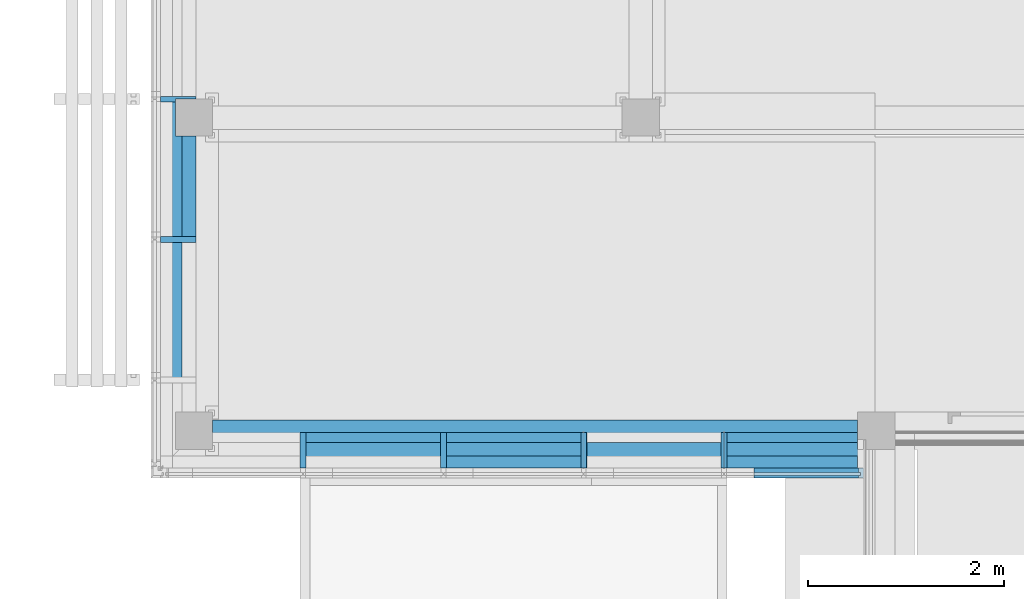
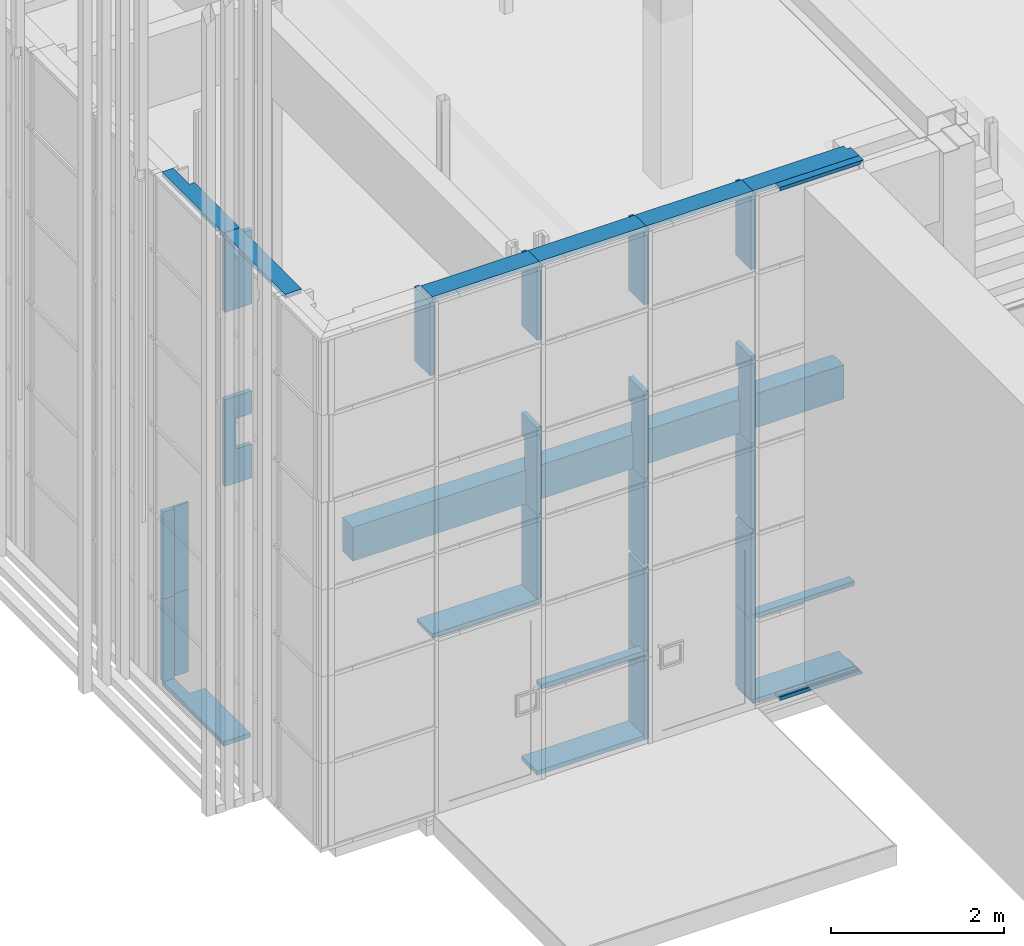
# One storey, part 69 of 260: 32 members, 1 beam, 2 elements without a shape of their own.
"""IFC2X3 building model written with IfcOpenShell, lengths in millimetres."""

from ifc_helpers import new_model, entity, si_unit, converted_unit, derived_unit, money_unit, direction, frame, origin_with_axes, place, context, subcontext, project, spatial, faceted_brep, material, type_object, element, aggregate, save


model = new_model("IFC2X3")

# Units and contexts
model_context = context("Model", 3, precision=0.01, world=origin_with_axes(), true_north=direction((0.0, 1.0)))
body_context = subcontext(model_context, "Body", "Model", "MODEL_VIEW")
ifc_project = project(units=[si_unit("LENGTHUNIT", "METRE", prefix="MILLI"), si_unit("AREAUNIT", "SQUARE_METRE"), si_unit("VOLUMEUNIT", "CUBIC_METRE"), converted_unit("PLANEANGLEUNIT", "DEGREE", entity("IfcPlaneAngleMeasure", 0.0174532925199), si_unit("PLANEANGLEUNIT", "RADIAN"), dimensions=[0, 0, 0, 0, 0, 0, 0]), money_unit("EUR"), converted_unit("TIMEUNIT", "Year", entity("IfcTimeMeasure", 31556926.0), si_unit("TIMEUNIT", "SECOND"), dimensions=[0, 0, 1, 0, 0, 0, 0]), si_unit("MASSUNIT", "GRAM", prefix="KILO"), si_unit("THERMODYNAMICTEMPERATUREUNIT", "DEGREE_CELSIUS"), si_unit("LUMINOUSINTENSITYUNIT", "LUMEN"), si_unit("ENERGYUNIT", "JOULE", prefix="MEGA"), derived_unit("THERMALCONDUCTANCEUNIT", [(si_unit("POWERUNIT", "WATT"), 1), (si_unit("LENGTHUNIT", "METRE"), -1), (si_unit("THERMODYNAMICTEMPERATUREUNIT", "KELVIN"), -1)]), derived_unit("SPECIFICHEATCAPACITYUNIT", [(si_unit("ENERGYUNIT", "JOULE"), 1), (si_unit("MASSUNIT", "GRAM", prefix="KILO"), -1), (si_unit("THERMODYNAMICTEMPERATUREUNIT", "KELVIN"), -1)]), derived_unit("MASSDENSITYUNIT", [(si_unit("MASSUNIT", "GRAM", prefix="KILO"), 1), (si_unit("VOLUMEUNIT", "CUBIC_METRE"), -1)])], contexts=[model_context])

# Site, building, storey
site_placement = place(None, origin_with_axes())
site = spatial("IfcSite", under=ifc_project, at=site_placement, Name="Kolde pst 67a", CompositionType="ELEMENT")
building_placement = place(site_placement, origin_with_axes())
building = spatial("IfcBuilding", under=site, at=building_placement, Name="Riigigümnaasium", CompositionType="ELEMENT")
storey_placement = place(building_placement, origin_with_axes())
storey = spatial("IfcBuildingStorey", under=building, at=storey_placement, Name="1. korrus", CompositionType="ELEMENT", Elevation=0.0)

# Curtain wall, members
curtain_wall_type = type_object("IfcCurtainWallType", Name="Curtain Wall Type", PredefinedType="NOTDEFINED")
curtain_wall_1_placement = place(storey_placement, frame((47829.9854655, 8727.77020058, -0.000749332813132), z_axis=(0.0, 0.0, 1.0), x_axis=(1.0, 0.0, 0.0)))
curtain_wall_1 = element("IfcCurtainWall", 1, at=curtain_wall_1_placement, inside=storey, type_object=curtain_wall_type, Name="KLAASFASSAAD")
ifc_material_1 = material(Name="_METALL - alumiinium")
member_type_1 = type_object("IfcMemberType", Name="Boundary Frame 50 x 100", PredefinedType="MEMBER")
member_1_placement = place(curtain_wall_1_placement, frame((7219.88143544, -1457.7720558, 0.000719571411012), z_axis=(-1.0, 2.70881141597e-07, 0.0), x_axis=(0.0, 0.0, 1.0)))
member_1 = element("IfcMember", 2, at=member_1_placement, type_object=member_type_1, material=ifc_material_1, Name="RF RAAM SERV-529", ObjectType="MEMBER", context=body_context, shape_type="Brep", body=[
    faceted_brep([(30.0, 16.5, 1116.31585111), (50.0, 16.5, 1116.31585111), (50.0, 60.0, 1116.31585111), (0.0, 60.0, 1116.31585111), (0.0, -40.0, 1116.31585111), (50.0, -40.0, 1116.31585111), (50.0, -16.5, 1116.31585111), (30.0, -16.5, 1116.31585111), (30.0, 16.5, 30.0), (50.0, 16.5, 50.0), (50.0, 60.0, 50.0), (0.0, 60.0, 0.0), (0.0, -40.0, 0.0), (50.0, -40.0, 50.0), (50.0, -16.5, 50.0), (30.0, -16.5, 30.0)], [[[0, 1, 2, 3, 4, 5, 6, 7]], [[0, 8, 9, 1]], [[9, 10, 2, 1]], [[2, 10, 11, 3]], [[3, 11, 12, 4]], [[4, 12, 13, 5]], [[6, 5, 13, 14]], [[14, 15, 7, 6]], [[7, 15, 8, 0]], [[8, 15, 14, 13, 12, 11, 10, 9]]]),
])
member_2_placement = place(curtain_wall_1_placement, frame((6103.56558433, -1457.77175342, 7259.99973108), z_axis=(1.0, -2.70881142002e-07, -1.00428530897e-07), x_axis=(-1.00428530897e-07, 0.0, -1.0)))
member_2 = element("IfcMember", 3, at=member_2_placement, type_object=member_type_1, material=ifc_material_1, Name="RF RAAM SERV-546", ObjectType="MEMBER", context=body_context, shape_type="Brep", body=[
    faceted_brep([(29.9998909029, 16.5, 1086.31596398), (49.9998929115, 16.5, 1066.31596602), (49.9998929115, 60.0, 1066.31596602), (-0.000112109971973, 60.0, 1116.31596092), (-0.000112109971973, -40.0, 1116.31596092), (49.9998929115, -40.0, 1066.31596602), (49.9998929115, -16.5, 1066.31596602), (29.9998909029, -16.5, 1086.31596398), (30.0, 16.5, 1.00060049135e-06), (50.0, 16.5, 3.00917690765e-06), (50.0, 60.0, 3.00917690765e-06), (0.0, 60.0, -2.01224992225e-06), (0.0, -40.0, -2.01224992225e-06), (50.0, -40.0, 3.00917690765e-06), (50.0, -16.5, 3.00916980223e-06), (30.0, -16.5, 1.00059338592e-06)], [[[0, 1, 2, 3, 4, 5, 6, 7]], [[0, 8, 9, 1]], [[9, 10, 2, 1]], [[10, 11, 3, 2]], [[11, 12, 4, 3]], [[12, 13, 5, 4]], [[6, 5, 13, 14]], [[14, 15, 7, 6]], [[7, 15, 8, 0]], [[8, 15, 14, 13, 12, 11, 10, 9]]]),
])
aggregate(curtain_wall_1, [member_1, member_2])

curtain_wall_2_placement = place(storey_placement, frame((47889.9854796, 7778.28071079, -0.000681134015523), z_axis=(0.0, 0.0, 1.0), x_axis=(1.0, 0.0, 0.0)))
curtain_wall_2 = element("IfcCurtainWall", 4, at=curtain_wall_2_placement, inside=storey, type_object=curtain_wall_type, Name="Klaasfassaadi puitkarkass")
ifc_material_2 = material(Name="_KANDETARIND - liimpuit vastavalt EK osale")
member_type_2 = type_object("IfcMemberType", Name="Transom Frame 60 x 120", PredefinedType="MEMBER")
member_3_placement = place(curtain_wall_2_placement, frame((7159.88154568, -448.282510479, 1230.00068113), z_axis=(-1.0, 2.61927579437e-07, 0.0), x_axis=(0.0, 0.0, 1.0)))
member_3 = element("IfcMember", 5, at=member_3_placement, type_object=member_type_2, material=ifc_material_2, Name="RF RAAM HOR-808", ObjectType="MEMBER", context=body_context, shape_type="Brep", body=[
    faceted_brep([(30.0, 0.0, 60.0), (30.0, 120.0, 60.0), (30.0, 120.0, 1388.31593485), (30.0, 0.0, 1388.31593485), (-30.0, 0.0, 60.0), (-30.0, 120.0, 60.0), (-30.0, 120.0, 1388.31593485), (-30.0, 0.0, 1388.31593485)], [[[0, 1, 2, 3]], [[1, 0, 4, 5]], [[1, 5, 6, 2]], [[2, 6, 7, 3]], [[4, 0, 3, 7]], [[5, 4, 7, 6]]]),
])
member_4_placement = place(curtain_wall_2_placement, frame((4310.65727801, -448.281764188, 1230.00068113), z_axis=(-1.0, 2.61927579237e-07, 0.0), x_axis=(0.0, 0.0, 1.0)))
member_4 = element("IfcMember", 6, at=member_4_placement, type_object=member_type_2, material=ifc_material_2, Name="RF RAAM HOR-810", ObjectType="MEMBER", context=body_context, shape_type="Brep", body=[
    faceted_brep([(30.0, 0.0, 30.0), (30.0, 120.0, 30.0), (30.0, 120.0, 1400.0), (30.0, 0.0, 1400.0), (-30.0, 0.0, 30.0), (-30.0, 120.0, 30.0), (-30.0, 120.0, 1400.0), (-30.0, 0.0, 1400.0)], [[[0, 1, 2, 3]], [[1, 0, 4, 5]], [[1, 5, 6, 2]], [[2, 6, 7, 3]], [[4, 0, 3, 7]], [[5, 4, 7, 6]]]),
])
member_type_3 = type_object("IfcMemberType", Name="Boundary Frame 60 x 360", PredefinedType="MEMBER")
member_5_placement = place(curtain_wall_2_placement, frame((-2.01861638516e-06, 1878.28063511, 0.0), z_axis=(-1.07471327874e-09, 1.0, 0.0), x_axis=(0.0, 0.0, 1.0)))
member_5 = element("IfcMember", 7, at=member_5_placement, type_object=member_type_3, material=ifc_material_2, Name="RF RAAM SERV-882", ObjectType="MEMBER", context=body_context, shape_type="Brep", body=[
    faceted_brep([(0.000681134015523, 360.000001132, 1053.4006273), (60.0, 360.000001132, 1053.4006273), (60.0, 360.0, -3.86897625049e-07), (0.0, 360.0, -3.86897625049e-07), (60.0, 150.000041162, 1053.40062753), (0.000681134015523, 150.000041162, 1053.40062753), (60.0, 150.000041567, 1429.99999984), (60.0, 1.5368399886e-06, 1430.0), (60.0, 0.0, 0.0), (0.0, 0.0, 0.0), (0.0, 1.5368399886e-06, 1430.0), (0.000681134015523, 150.000041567, 1429.99999984)], [[[0, 1, 2, 3]], [[4, 1, 0, 5]], [[4, 6, 7, 8, 2, 1]], [[3, 2, 8, 9]], [[5, 0, 3, 9, 10, 11]], [[11, 6, 4, 5]], [[6, 11, 10, 7]], [[9, 8, 7, 10]]]),
])
member_6_placement = place(curtain_wall_2_placement, frame((4310.65727801, -448.281764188, 0.000492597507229), z_axis=(-1.0, 2.61927579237e-07, 0.0), x_axis=(0.0, 0.0, 1.0)))
member_6 = element("IfcMember", 8, at=member_6_placement, type_object=member_type_3, material=ifc_material_2, Name="RF RAAM SERV-856", ObjectType="MEMBER", context=body_context, shape_type="Brep", body=[
    faceted_brep([(60.0, 360.0, 0.0), (60.0, 360.0, 1460.0), (60.0, 0.0, 1460.0), (60.0, 0.0, 0.0), (0.0, 360.0, 0.0), (0.0, 360.0, 1460.0), (0.0, 0.0, 1460.0), (0.0, 0.0, 0.0)], [[[0, 1, 2, 3]], [[4, 5, 1, 0]], [[1, 5, 6, 2]], [[3, 2, 6, 7]], [[0, 3, 7, 4]], [[7, 6, 5, 4]]]),
])
member_7_placement = place(curtain_wall_2_placement, frame((7159.88154568, -448.282510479, 0.000492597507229), z_axis=(-1.0, 2.61927579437e-07, 0.0), x_axis=(0.0, 0.0, 1.0)))
member_7 = element("IfcMember", 9, at=member_7_placement, type_object=member_type_3, material=ifc_material_2, Name="RF RAAM SERV-916", ObjectType="MEMBER", context=body_context, shape_type="Brep", body=[
    faceted_brep([(0.000188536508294, 360.0, 59.886848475), (0.000188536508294, 190.001783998, 59.8868039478), (0.000188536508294, 190.001799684, 0.0), (0.0, 0.0, 0.0), (0.0, 0.0, 1418.31593485), (0.0, 360.0, 1418.31593485), (59.886848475, 360.0, 59.886848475), (59.8868039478, 190.001783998, 59.8868039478), (60.0, 360.0, 60.0), (60.0, 0.0, 60.0), (60.0, 0.0, 1418.31593485), (60.0, 360.0, 1418.31593485)], [[[0, 1, 2, 3, 4, 5]], [[0, 6, 7, 1]], [[7, 2, 1]], [[7, 6, 8, 9, 3, 2]], [[4, 3, 9, 10]], [[10, 11, 5, 4]], [[6, 0, 5, 11, 8]], [[10, 9, 8, 11]]]),
])
member_8_placement = place(curtain_wall_2_placement, frame((5740.65727801, -448.282138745, 7259.99957922), z_axis=(1.0, -2.61927578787e-07, 0.0), x_axis=(0.0, 0.0, -1.0)))
member_8 = element("IfcMember", 10, at=member_8_placement, type_object=member_type_3, material=ifc_material_2, Name="RF RAAM SERV-873", ObjectType="MEMBER", context=body_context, shape_type="Brep", body=[
    faceted_brep([(59.8917492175, 260.001783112, 1359.33744539), (59.8868323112, 190.001783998, 1359.33746372), (0.0, 190.001799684, 1419.22429765), (0.0, 0.0, 1419.22429765), (60.0, 0.0, 1359.22429603), (59.9988980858, 260.001783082, 1359.22429603), (0.0, 260.001783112, 1359.33744539), (0.0, 190.001783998, 1359.33746372), (0.0, 260.001427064, 0.0), (0.0, 0.0, 0.0), (60.0, 0.0, 0.0), (59.9988980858, 260.001427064, 0.0)], [[[0, 1, 2, 3, 4, 5]], [[0, 6, 7, 1]], [[7, 2, 1]], [[7, 6, 8, 9, 3, 2]], [[3, 9, 10, 4]], [[10, 11, 5, 4]], [[6, 0, 5, 11, 8]], [[9, 8, 11, 10]]]),
])
member_9_placement = place(curtain_wall_2_placement, frame((4310.65727801, -448.281764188, 7259.99957922), z_axis=(1.0, -2.61927578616e-07, 0.0), x_axis=(0.0, 0.0, -1.0)))
member_9 = element("IfcMember", 11, at=member_9_placement, type_object=member_type_3, material=ifc_material_2, Name="RF RAAM SERV-872", ObjectType="MEMBER", context=body_context, shape_type="Brep", body=[
    faceted_brep([(59.9988980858, 260.001427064, 1430.0), (0.0, 260.001427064, 1430.0), (0.0, 0.0, 1430.0), (60.0, 0.0, 1430.0), (0.0, 260.001052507, 0.0), (59.9988980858, 260.001052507, 0.0), (0.0, 0.0, 0.0), (60.0, 0.0, 0.0)], [[[0, 1, 2, 3]], [[4, 1, 0, 5]], [[1, 4, 6, 2]], [[6, 7, 3, 2]], [[5, 0, 3, 7]], [[4, 5, 7, 6]]]),
])
member_10_placement = place(curtain_wall_2_placement, frame((2880.65727801, -448.281389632, 7259.99957922), z_axis=(1.0, -2.61927579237e-07, 0.0), x_axis=(0.0, 0.0, -1.0)))
member_10 = element("IfcMember", 12, at=member_10_placement, type_object=member_type_3, material=ifc_material_2, Name="RF RAAM SERV-871", ObjectType="MEMBER", context=body_context, shape_type="Brep", body=[
    faceted_brep([(59.9988980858, 260.001052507, 1430.0), (0.0, 260.001052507, 1430.0), (0.0, 0.0, 1430.0), (60.0, 0.0, 1430.0), (0.0, 260.000677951, 0.0), (59.9988980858, 260.000677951, 0.0), (0.0, 0.0, 0.0), (60.0, 0.0, 0.0)], [[[0, 1, 2, 3]], [[4, 1, 0, 5]], [[1, 4, 6, 2]], [[6, 7, 3, 2]], [[5, 0, 3, 7]], [[4, 5, 7, 6]]]),
])
member_11_placement = place(curtain_wall_2_placement, frame((1450.65727801, -448.281015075, 7259.99957922), z_axis=(1.0, -2.61927578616e-07, 0.0), x_axis=(0.0, 0.0, -1.0)))
member_11 = element("IfcMember", 13, at=member_11_placement, type_object=member_type_3, material=ifc_material_2, Name="RF RAAM SERV-870", ObjectType="MEMBER", context=body_context, shape_type="Brep", body=[
    faceted_brep([(59.9988980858, 260.000677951, 1430.0), (0.0, 260.000677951, 1430.0), (0.0, 0.0, 1430.0), (60.0, 0.0, 1430.0), (0.0, 260.000303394, 0.0), (59.9988980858, 260.000303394, 0.0), (0.0, 0.0, 0.0), (60.0, 0.0, 0.0)], [[[0, 1, 2, 3]], [[4, 1, 0, 5]], [[1, 4, 6, 2]], [[6, 7, 3, 2]], [[5, 0, 3, 7]], [[4, 5, 7, 6]]]),
])
member_12_placement = place(curtain_wall_2_placement, frame((-2.01861638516e-06, 1878.28063511, 7260.00002512), z_axis=(1.07471824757e-09, -1.0, 0.0), x_axis=(0.0, 0.0, -1.0)))
member_12 = element("IfcMember", 14, at=member_12_placement, type_object=member_type_3, material=ifc_material_2, Name="RF RAAM SERV-908", ObjectType="MEMBER", context=body_context, shape_type="Brep", body=[
    faceted_brep([(0.0, 220.000018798, 1430.00000024), (0.0, 220.000020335, 2.36438424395e-07), (0.0, 0.0, 0.0), (0.0, -1.53684709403e-06, 1430.0), (59.9993439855, 220.000020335, 2.36438424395e-07), (59.9993439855, 220.000018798, 1430.00000024), (60.0, 0.0, 0.0), (60.0, -1.53684709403e-06, 1430.0)], [[[0, 1, 2, 3]], [[4, 1, 0, 5]], [[1, 4, 6, 2]], [[2, 6, 7, 3]], [[5, 0, 3, 7]], [[4, 5, 7, 6]]]),
])
member_13_placement = place(curtain_wall_2_placement, frame((-3.55545637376e-06, 3308.28063511, 7260.00002512), z_axis=(1.07471327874e-09, -1.0, 0.0), x_axis=(0.0, 0.0, -1.0)))
member_13 = element("IfcMember", 15, at=member_13_placement, type_object=member_type_3, material=ifc_material_2, Name="RF RAAM SERV-907", ObjectType="MEMBER", context=body_context, shape_type="Brep", body=[
    faceted_brep([(59.9993439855, 220.000021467, 376.599372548), (0.0, 220.000021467, 376.599372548), (0.0, 220.000020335, 1430.00000024), (59.9993439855, 220.000020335, 1430.00000024), (0.0, 150.000022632, 376.599372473), (59.9993439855, 150.000022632, 376.599372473), (0.0, 150.000023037, 1.61207935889e-07), (0.0, 0.0, 0.0), (0.0, -1.5368399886e-06, 1430.0), (60.0, -1.5368399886e-06, 1430.0), (60.0, 0.0, 0.0), (60.0, 150.000023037, 1.61207935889e-07)], [[[0, 1, 2, 3]], [[4, 1, 0, 5]], [[4, 6, 7, 8, 2, 1]], [[9, 3, 2, 8]], [[5, 0, 3, 9, 10, 11]], [[11, 6, 4, 5]], [[6, 11, 10, 7]], [[8, 7, 10, 9]]]),
])
member_14_placement = place(curtain_wall_2_placement, frame((2880.65727801, -448.281389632, 2460.00068113), z_axis=(-1.0, 2.61927578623e-07, 0.0), x_axis=(0.0, 0.0, 1.0)))
member_14 = element("IfcMember", 16, at=member_14_placement, type_object=member_type_3, material=ifc_material_2, Name="RF RAAM HOR-776", ObjectType="MEMBER", context=body_context, shape_type="Brep", body=[
    faceted_brep([(30.0, 360.0, 0.0), (30.0, 360.0, 1429.09167798), (30.0, 0.0, 1429.09167798), (30.0, 0.0, 0.0), (-30.0, 360.0, 0.0), (-30.0, 360.0, 1429.09167798), (-30.0, 0.0, 1429.09167798), (-30.0, 0.0, 0.0)], [[[0, 1, 2, 3]], [[4, 5, 1, 0]], [[1, 5, 6, 2]], [[3, 2, 6, 7]], [[0, 3, 7, 4]], [[7, 6, 5, 4]]]),
])
member_type_4 = type_object("IfcMemberType", Name="Mullion Frame 60 x 360", PredefinedType="MEMBER")
member_15_placement = place(curtain_wall_2_placement, frame((-2.01861638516e-06, 1878.28063511, 3690.00068113), z_axis=(0.0, 0.0, 1.0), x_axis=(1.07471576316e-09, -1.0, 0.0)))
member_15 = element("IfcMember", 17, at=member_15_placement, type_object=member_type_4, material=ifc_material_2, Name="RF RAAM VERT-457", ObjectType="MEMBER", context=body_context, shape_type="Brep", body=[
    faceted_brep([(30.0, 360.0, 910.0), (-30.0, 360.0, 910.0), (-30.0, 360.0, 1230.0), (30.0, 360.0, 1230.0), (-30.0, 150.000013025, 910.0), (30.0, 150.000012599, 910.0), (-30.0, 150.000013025, 480.0), (-30.0, 360.0, 480.0), (-30.0, 360.0, 0.0), (-30.0, 0.0, 0.0), (-30.0, 0.0, 1230.0), (-30.0, 150.000013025, 907.0), (-30.0, 150.000013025, 810.0), (-30.0, 150.000013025, 780.0), (-30.0, 150.000013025, 760.0), (30.0, 0.0, 1230.0), (30.0, 0.0, 0.0), (30.0, 360.0, 0.0), (30.0, 360.0, 480.0), (30.0, 150.000012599, 480.0), (30.0, 150.000012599, 760.0), (30.0, 150.000012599, 780.0), (30.0, 150.000012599, 810.0), (30.0, 150.000012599, 907.0)], [[[0, 1, 2, 3]], [[4, 1, 0, 5]], [[6, 7, 8, 9, 10, 2, 1, 4, 11, 12, 13, 14]], [[10, 15, 3, 2]], [[5, 0, 3, 15, 16, 17, 18, 19, 20, 21, 22, 23]], [[11, 4, 5, 23]], [[18, 7, 6, 19]], [[7, 18, 17, 8]], [[9, 8, 17, 16]], [[10, 9, 16, 15]], [[12, 11, 23, 22]], [[13, 12, 22, 21]], [[14, 13, 21, 20]], [[6, 14, 20, 19]]]),
])
member_16_placement = place(curtain_wall_2_placement, frame((-3.55545637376e-06, 3308.28063511, 0.0), z_axis=(0.0, 0.0, 1.0), x_axis=(1.07471576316e-09, -1.0, 0.0)))
member_16 = element("IfcMember", 18, at=member_16_placement, type_object=member_type_4, material=ifc_material_2, Name="RF RAAM VERT-457", ObjectType="MEMBER", context=body_context, shape_type="Brep", body=[
    faceted_brep([(30.0, 150.000041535, 1230.0002536), (-3.40062752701, 150.00004157, 1230.0002536), (-3.40062730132, 360.0, 1230.0002536), (-30.0, 360.0, 1230.0002536), (-30.0, 0.0, 1230.0002536), (30.0, 0.0, 1230.0002536), (30.0, 150.000041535, 60.0), (-3.40062752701, 150.00004157, 60.0), (-3.40062730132, 360.0, 60.0), (-30.0, 360.0, 60.0), (-30.0, 0.0, 60.0), (30.0, 0.0, 60.0)], [[[0, 1, 2, 3, 4, 5]], [[1, 0, 6, 7]], [[8, 2, 1, 7]], [[2, 8, 9, 3]], [[3, 9, 10, 4]], [[4, 10, 11, 5]], [[6, 0, 5, 11]], [[7, 6, 11, 10, 9, 8]]]),
])
member_17_placement = place(curtain_wall_2_placement, frame((-3.55545637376e-06, 3308.28063511, 1230.00068113), z_axis=(0.0, 0.0, 1.0), x_axis=(1.07471576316e-09, -1.0, 0.0)))
member_17 = element("IfcMember", 19, at=member_17_placement, type_object=member_type_4, material=ifc_material_2, Name="RF RAAM VERT-457", ObjectType="MEMBER", context=body_context, shape_type="Brep", body=[
    faceted_brep([(30.0, 150.000041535, 1230.0), (-3.40062752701, 150.00004157, 1230.0), (-3.40062730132, 360.0, 1230.0), (-30.0, 360.0, 1230.0), (-30.0, 0.0, 1230.0), (30.0, 0.0, 1230.0), (30.0, 150.000041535, 0.0), (-3.40062752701, 150.00004157, 0.0), (-3.40062730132, 360.0, 0.0), (-30.0, 360.0, 0.0), (-30.0, 0.0, 0.0), (30.0, 0.0, 0.0)], [[[0, 1, 2, 3, 4, 5]], [[1, 0, 6, 7]], [[8, 2, 1, 7]], [[2, 8, 9, 3]], [[9, 10, 4, 3]], [[10, 11, 5, 4]], [[6, 0, 5, 11]], [[7, 6, 11, 10, 9, 8]]]),
])
member_18_placement = place(curtain_wall_2_placement, frame((5740.65727801, -448.282138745, 1230.00068113), z_axis=(0.0, 0.0, 1.0), x_axis=(1.0, -2.61927579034e-07, 0.0)))
member_18 = element("IfcMember", 20, at=member_18_placement, type_object=member_type_4, material=ifc_material_2, Name="RF RAAM VERT-457", ObjectType="MEMBER", context=body_context, shape_type="Brep", body=[
    faceted_brep([(-30.0, -7.85782727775e-06, 1200.0), (-30.0, -7.85782727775e-06, -30.0), (30.0, 7.85782727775e-06, -30.0), (30.0, 7.85782727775e-06, 1230.0), (0.0, 0.0, 1230.0), (0.0, 0.0, 1200.0), (-30.0000942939, 359.999992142, 1200.0), (-30.0000942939, 359.999992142, -30.0), (29.9999057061, 360.000007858, -30.0), (29.9999057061, 360.000007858, 1230.0), (-9.42939095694e-05, 360.0, 1230.0), (-9.42939095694e-05, 360.0, 1200.0)], [[[0, 1, 2, 3, 4, 5]], [[6, 7, 1, 0]], [[7, 8, 2, 1]], [[2, 8, 9, 3]], [[4, 3, 9, 10]], [[10, 11, 5, 4]], [[5, 11, 6, 0]], [[11, 10, 9, 8, 7, 6]]]),
])
member_19_placement = place(curtain_wall_2_placement, frame((5740.65727801, -448.282138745, 2460.00068113), z_axis=(0.0, 0.0, 1.0), x_axis=(1.0, -2.61927578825e-07, 0.0)))
member_19 = element("IfcMember", 21, at=member_19_placement, type_object=member_type_4, material=ifc_material_2, Name="RF RAAM VERT-457", ObjectType="MEMBER", context=body_context, shape_type="Brep", body=[
    faceted_brep([(-30.0, -7.85782727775e-06, 30.0), (0.0, 0.0, 30.0), (0.0, 0.0, 0.0), (30.0, 7.85782727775e-06, 0.0), (30.0, 7.85782727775e-06, 1230.0), (-30.0, -7.85782727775e-06, 1230.0), (-30.0000942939, 359.999992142, 30.0), (-9.42939166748e-05, 360.0, 30.0), (-9.42939166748e-05, 360.0, 0.0), (29.9999057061, 360.000007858, 0.0), (29.9999057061, 360.000007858, 1230.0), (-30.0000942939, 359.999992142, 1230.0)], [[[0, 1, 2, 3, 4, 5]], [[1, 0, 6, 7]], [[2, 1, 7, 8]], [[2, 8, 9, 3]], [[4, 3, 9, 10]], [[5, 4, 10, 11]], [[6, 0, 5, 11]], [[8, 7, 6, 11, 10, 9]]]),
])
member_20_placement = place(curtain_wall_2_placement, frame((5740.65727801, -448.282138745, 3690.00068113), z_axis=(0.0, 0.0, 1.0), x_axis=(1.0, -2.61927578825e-07, 0.0)))
member_20 = element("IfcMember", 22, at=member_20_placement, type_object=member_type_4, material=ifc_material_2, Name="RF RAAM VERT-457", ObjectType="MEMBER", context=body_context, shape_type="Brep", body=[
    faceted_brep([(29.9999345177, 250.001435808, 0.0), (29.9999345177, 250.001435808, 480.0), (29.9999240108, 290.115452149, 480.0), (29.9999240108, 290.115452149, 760.0), (29.9999240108, 290.115452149, 780.0), (29.9999240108, 290.115452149, 810.0), (29.9999240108, 290.115452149, 907.0), (29.9999240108, 290.115452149, 910.0), (29.9999057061, 360.000007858, 910.0), (29.9999057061, 360.000007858, 1230.0), (30.0, 7.85782550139e-06, 1230.0), (30.0, 7.85782550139e-06, 0.0), (-30.0000654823, 250.001420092, 0.0), (-30.0000654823, 250.001420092, 480.0), (-30.0000759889, 290.114016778, 480.0), (-30.0000759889, 290.114016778, 760.0), (-30.0000759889, 290.114016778, 780.0), (-30.0000759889, 290.114016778, 810.0), (-30.0000759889, 290.114016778, 907.0), (-30.0000759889, 290.114016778, 910.0), (-30.0000942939, 359.999992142, 910.0), (-30.0000942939, 359.999992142, 1230.0), (-30.0, -7.8578290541e-06, 1230.0), (-30.0, -7.8578290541e-06, 0.0)], [[[0, 1, 2, 3, 4, 5, 6, 7, 8, 9, 10, 11]], [[1, 0, 12, 13]], [[14, 2, 1, 13]], [[2, 14, 15, 3]], [[16, 4, 3, 15]], [[17, 5, 4, 16]], [[18, 6, 5, 17]], [[19, 7, 6, 18]], [[19, 20, 8, 7]], [[9, 8, 20, 21]], [[21, 22, 10, 9]], [[10, 22, 23, 11]], [[12, 0, 11, 23]], [[13, 12, 23, 22, 21, 20, 19, 18, 17, 16, 15, 14]]]),
])
member_21_placement = place(curtain_wall_2_placement, frame((4310.65727801, -448.281764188, 1230.00068113), z_axis=(0.0, 0.0, 1.0), x_axis=(1.0, -2.61927578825e-07, 0.0)))
member_21 = element("IfcMember", 23, at=member_21_placement, type_object=member_type_4, material=ifc_material_2, Name="RF RAAM VERT-457", ObjectType="MEMBER", context=body_context, shape_type="Brep", body=[
    faceted_brep([(29.9999057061, 360.000007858, -30.0), (29.9999057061, 360.000007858, 1200.0), (30.0, 7.85782727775e-06, 1200.0), (30.0, 7.85782727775e-06, -30.0), (-30.0000942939, 359.999992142, -30.0), (-30.0000942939, 359.999992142, 1200.0), (-30.0, -7.85782727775e-06, 1200.0), (-30.0, -7.85782727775e-06, -30.0)], [[[0, 1, 2, 3]], [[4, 5, 1, 0]], [[1, 5, 6, 2]], [[3, 2, 6, 7]], [[0, 3, 7, 4]], [[7, 6, 5, 4]]]),
])
member_22_placement = place(curtain_wall_2_placement, frame((4310.65727801, -448.281764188, 2460.00068113), z_axis=(0.0, 0.0, 1.0), x_axis=(1.0, -2.61927578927e-07, 0.0)))
member_22 = element("IfcMember", 24, at=member_22_placement, type_object=member_type_4, material=ifc_material_2, Name="RF RAAM VERT-457", ObjectType="MEMBER", context=body_context, shape_type="Brep", body=[
    faceted_brep([(30.0, 7.85782727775e-06, 1230.0), (30.0, 7.85782727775e-06, 30.0), (29.9999057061, 360.000007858, 30.0), (29.9999057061, 360.000007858, 1230.0), (-30.0, -7.85782727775e-06, 1230.0), (-30.0, -7.85782727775e-06, 30.0), (-30.0000942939, 359.999992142, 30.0), (-30.0000942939, 359.999992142, 1230.0)], [[[0, 1, 2, 3]], [[4, 5, 1, 0]], [[6, 2, 1, 5]], [[3, 2, 6, 7]], [[0, 3, 7, 4]], [[7, 6, 5, 4]]]),
])
member_23_placement = place(curtain_wall_2_placement, frame((4310.65727801, -448.281764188, 3690.00068113), z_axis=(0.0, 0.0, 1.0), x_axis=(1.0, -2.61927578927e-07, 0.0)))
member_23 = element("IfcMember", 25, at=member_23_placement, type_object=member_type_4, material=ifc_material_2, Name="RF RAAM VERT-457", ObjectType="MEMBER", context=body_context, shape_type="Brep", body=[
    faceted_brep([(29.9999345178, 250.001061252, 0.0), (29.9999345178, 250.001061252, 480.0), (29.9999240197, 290.081242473, 480.0), (29.9999240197, 290.081242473, 760.0), (29.9999240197, 290.081242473, 780.0), (29.9999240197, 290.081242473, 810.0), (29.9999240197, 290.081242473, 907.0), (29.9999240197, 290.081242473, 910.0), (29.9999057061, 360.000007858, 910.0), (29.9999057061, 360.000007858, 1230.0), (30.0, 7.85782727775e-06, 1230.0), (30.0, 7.85782727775e-06, 0.0), (-30.0000654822, 250.001045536, 0.0), (-30.0000654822, 250.001045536, 480.0), (-30.0000759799, 290.079807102, 480.0), (-30.0000759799, 290.079807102, 760.0), (-30.0000759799, 290.079807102, 780.0), (-30.0000759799, 290.079807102, 810.0), (-30.0000759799, 290.079807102, 907.0), (-30.0000759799, 290.079807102, 910.0), (-30.0000942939, 359.999992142, 910.0), (-30.0000942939, 359.999992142, 1230.0), (-30.0, -7.85782727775e-06, 1230.0), (-30.0, -7.85782727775e-06, 0.0)], [[[0, 1, 2, 3, 4, 5, 6, 7, 8, 9, 10, 11]], [[1, 0, 12, 13]], [[14, 2, 1, 13]], [[2, 14, 15, 3]], [[16, 4, 3, 15]], [[17, 5, 4, 16]], [[18, 6, 5, 17]], [[19, 7, 6, 18]], [[19, 20, 8, 7]], [[9, 8, 20, 21]], [[21, 22, 10, 9]], [[10, 22, 23, 11]], [[12, 0, 11, 23]], [[13, 12, 23, 22, 21, 20, 19, 18, 17, 16, 15, 14]]]),
])
member_24_placement = place(curtain_wall_2_placement, frame((2880.65727801, -448.281389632, 2460.00068113), z_axis=(0.0, 0.0, 1.0), x_axis=(1.0, -2.61927578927e-07, 0.0)))
member_24 = element("IfcMember", 26, at=member_24_placement, type_object=member_type_4, material=ifc_material_2, Name="RF RAAM VERT-457", ObjectType="MEMBER", context=body_context, shape_type="Brep", body=[
    faceted_brep([(30.0, 7.85782727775e-06, 1230.0), (30.0, 7.85782727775e-06, 30.0), (29.9999057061, 360.000007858, 30.0), (29.9999057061, 360.000007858, 1230.0), (-30.0, -7.85782727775e-06, 1230.0), (-30.0, -7.85782727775e-06, 30.0), (-30.0000942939, 359.999992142, 30.0), (-30.0000942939, 359.999992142, 1230.0)], [[[0, 1, 2, 3]], [[4, 5, 1, 0]], [[6, 2, 1, 5]], [[3, 2, 6, 7]], [[0, 3, 7, 4]], [[7, 6, 5, 4]]]),
])
member_25_placement = place(curtain_wall_2_placement, frame((2880.65727801, -448.281389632, 3690.00068113), z_axis=(0.0, 0.0, 1.0), x_axis=(1.0, -2.61927578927e-07, 0.0)))
member_25 = element("IfcMember", 27, at=member_25_placement, type_object=member_type_4, material=ifc_material_2, Name="RF RAAM VERT-457", ObjectType="MEMBER", context=body_context, shape_type="Brep", body=[
    faceted_brep([(29.9999345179, 250.000686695, 0.0), (29.9999345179, 250.000686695, 480.0), (29.9999240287, 290.047032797, 480.0), (29.9999240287, 290.047032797, 760.0), (29.9999240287, 290.047032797, 780.0), (29.9999240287, 290.047032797, 810.0), (29.9999240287, 290.047032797, 907.0), (29.9999240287, 290.047032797, 910.0), (29.9999057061, 360.000007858, 910.0), (29.9999057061, 360.000007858, 1230.0), (30.0, 7.85782816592e-06, 1230.0), (30.0, 7.85782816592e-06, 0.0), (-30.0000654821, 250.00067098, 0.0), (-30.0000654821, 250.00067098, 480.0), (-30.0000759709, 290.045597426, 480.0), (-30.0000759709, 290.045597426, 760.0), (-30.0000759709, 290.045597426, 780.0), (-30.0000759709, 290.045597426, 810.0), (-30.0000759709, 290.045597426, 907.0), (-30.0000759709, 290.045597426, 910.0), (-30.0000942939, 359.999992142, 910.0), (-30.0000942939, 359.999992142, 1230.0), (-30.0, -7.85782638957e-06, 1230.0), (-30.0, -7.85782638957e-06, 0.0)], [[[0, 1, 2, 3, 4, 5, 6, 7, 8, 9, 10, 11]], [[1, 0, 12, 13]], [[14, 2, 1, 13]], [[2, 14, 15, 3]], [[16, 4, 3, 15]], [[17, 5, 4, 16]], [[18, 6, 5, 17]], [[19, 7, 6, 18]], [[19, 20, 8, 7]], [[9, 8, 20, 21]], [[21, 22, 10, 9]], [[10, 22, 23, 11]], [[12, 0, 11, 23]], [[13, 12, 23, 22, 21, 20, 19, 18, 17, 16, 15, 14]]]),
])
member_26_placement = place(curtain_wall_2_placement, frame((5740.65727801, -448.282138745, 6150.00068113), z_axis=(0.0, 0.0, 1.0), x_axis=(1.0, -2.61927578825e-07, 0.0)))
member_26 = element("IfcMember", 28, at=member_26_placement, type_object=member_type_4, material=ifc_material_2, Name="RF RAAM VERT-849", ObjectType="MEMBER", context=body_context, shape_type="Brep", body=[
    faceted_brep([(30.0, 7.85782727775e-06, 0.0), (29.9999057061, 360.000007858, 0.0), (29.9999057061, 360.000007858, 1049.99958427), (30.0, 7.85782727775e-06, 1049.99958755), (-30.0000942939, 359.999992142, 0.0), (-30.0, -7.85782727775e-06, 0.0), (-30.0000942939, 359.999992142, 1049.99958427), (-30.0, -7.85782727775e-06, 1049.99958755)], [[[0, 1, 2, 3]], [[4, 1, 0, 5]], [[1, 4, 6, 2]], [[3, 2, 6, 7]], [[5, 0, 3, 7]], [[4, 5, 7, 6]]]),
])
member_27_placement = place(curtain_wall_2_placement, frame((4310.65727801, -448.281764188, 6150.00068113), z_axis=(0.0, 0.0, 1.0), x_axis=(1.0, -2.61927578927e-07, 0.0)))
member_27 = element("IfcMember", 29, at=member_27_placement, type_object=member_type_4, material=ifc_material_2, Name="RF RAAM VERT-850", ObjectType="MEMBER", context=body_context, shape_type="Brep", body=[
    faceted_brep([(30.0, 7.85782727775e-06, 0.0), (29.9999057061, 360.000007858, 0.0), (29.9999057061, 360.000007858, 1049.99958427), (30.0, 7.85782727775e-06, 1049.99958755), (-30.0000942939, 359.999992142, 0.0), (-30.0, -7.85782727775e-06, 0.0), (-30.0000942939, 359.999992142, 1049.99958427), (-30.0, -7.85782727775e-06, 1049.99958755)], [[[0, 1, 2, 3]], [[4, 1, 0, 5]], [[1, 4, 6, 2]], [[3, 2, 6, 7]], [[5, 0, 3, 7]], [[4, 5, 7, 6]]]),
])
member_28_placement = place(curtain_wall_2_placement, frame((2880.65727801, -448.281389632, 6150.00068113), z_axis=(0.0, 0.0, 1.0), x_axis=(1.0, -2.61927578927e-07, 0.0)))
member_28 = element("IfcMember", 30, at=member_28_placement, type_object=member_type_4, material=ifc_material_2, Name="RF RAAM VERT-851", ObjectType="MEMBER", context=body_context, shape_type="Brep", body=[
    faceted_brep([(30.0, 7.85782727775e-06, 0.0), (29.9999057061, 360.000007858, 0.0), (29.9999057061, 360.000007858, 1049.99958427), (30.0, 7.85782727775e-06, 1049.99958755), (-30.0000942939, 359.999992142, 0.0), (-30.0, -7.85782727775e-06, 0.0), (-30.0000942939, 359.999992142, 1049.99958427), (-30.0, -7.85782727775e-06, 1049.99958755)], [[[0, 1, 2, 3]], [[4, 1, 0, 5]], [[1, 4, 6, 2]], [[3, 2, 6, 7]], [[5, 0, 3, 7]], [[4, 5, 7, 6]]]),
])
member_29_placement = place(curtain_wall_2_placement, frame((1450.65727801, -448.281015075, 6150.00068113), z_axis=(0.0, 0.0, 1.0), x_axis=(1.0, -2.61927578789e-07, 0.0)))
member_29 = element("IfcMember", 31, at=member_29_placement, type_object=member_type_4, material=ifc_material_2, Name="RF RAAM VERT-852", ObjectType="MEMBER", context=body_context, shape_type="Brep", body=[
    faceted_brep([(30.0, 7.85782727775e-06, 0.0), (29.9999057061, 360.000007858, 0.0), (29.9999057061, 360.000007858, 1049.99958427), (30.0, 7.85782727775e-06, 1049.99958755), (-30.0000942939, 359.999992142, 0.0), (-30.0, -7.85782727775e-06, 0.0), (-30.0000942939, 359.999992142, 1049.99958427), (-30.0, -7.85782727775e-06, 1049.99958755)], [[[0, 1, 2, 3]], [[4, 1, 0, 5]], [[1, 4, 6, 2]], [[3, 2, 6, 7]], [[5, 0, 3, 7]], [[4, 5, 7, 6]]]),
])
member_30_placement = place(curtain_wall_2_placement, frame((-2.01861638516e-06, 1878.28063511, 6150.00068113), z_axis=(0.0, 0.0, 1.0), x_axis=(1.07471576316e-09, -1.0, 0.0)))
member_30 = element("IfcMember", 32, at=member_30_placement, type_object=member_type_4, material=ifc_material_2, Name="RF RAAM VERT-873", ObjectType="MEMBER", context=body_context, shape_type="Brep", body=[
    faceted_brep([(30.0, 0.0, 0.0), (30.0, 360.0, 0.0), (30.0, 360.0, 1049.99958427), (30.0, 0.0, 1049.99958755), (-30.0, 360.0, 0.0), (-30.0, 0.0, 0.0), (-30.0, 360.0, 1049.99958427), (-30.0, 0.0, 1049.99958755)], [[[0, 1, 2, 3]], [[4, 1, 0, 5]], [[1, 4, 6, 2]], [[3, 2, 6, 7]], [[5, 0, 3, 7]], [[4, 5, 7, 6]]]),
])
member_31_placement = place(curtain_wall_2_placement, frame((5741.56561083, -448.282138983, 0.000492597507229), z_axis=(0.0, 0.0, 1.0), x_axis=(1.0, -2.61927579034e-07, 0.0)))
member_31 = element("IfcMember", 33, at=member_31_placement, type_object=member_type_4, material=ifc_material_2, Name="RF RAAM VERT-976", ObjectType="MEMBER", context=body_context, shape_type="Brep", body=[
    faceted_brep([(30.0, 7.85782727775e-06, 60.0), (29.9999057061, 360.000007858, 60.0), (29.9999057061, 360.000007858, 1260.00018854), (30.0, 7.85782727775e-06, 1260.00018854), (-30.0, -7.85782816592e-06, 60.0), (-30.0000942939, 359.999992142, 60.0), (-30.0000942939, 359.999992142, 1260.00018854), (-30.0, -7.85782816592e-06, 1260.00018854)], [[[0, 1, 2, 3]], [[1, 0, 4, 5]], [[1, 5, 6, 2]], [[2, 6, 7, 3]], [[4, 0, 3, 7]], [[5, 4, 7, 6]]]),
])
member_32_placement = place(curtain_wall_2_placement, frame((4311.56561164, -448.281764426, 0.16288149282), z_axis=(-3.74384657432e-09, 0.0, 1.0), x_axis=(1.0, -2.61927578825e-07, 3.74384657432e-09)))
member_32 = element("IfcMember", 34, at=member_32_placement, type_object=member_type_4, material=ifc_material_2, Name="RF RAAM VERT-008", ObjectType="MEMBER", context=body_context, shape_type="Brep", body=[
    faceted_brep([(29.9999057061, 360.000007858, -1.12315137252e-07), (29.9999104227, 360.000007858, 1259.83779953), (30.0000047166, 7.85782727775e-06, 1259.83779953), (30.0, 7.85782727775e-06, -1.12315397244e-07), (-30.0000942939, 359.999992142, 1.12315657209e-07), (-30.0000895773, 359.999992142, 1259.83779975), (-29.9999952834, -7.85782727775e-06, 1259.83779975), (-30.0, -7.85782727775e-06, 1.12315397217e-07)], [[[0, 1, 2, 3]], [[4, 5, 1, 0]], [[1, 5, 6, 2]], [[3, 2, 6, 7]], [[0, 3, 7, 4]], [[7, 6, 5, 4]]]),
])
aggregate(curtain_wall_2, [member_15, member_16, member_17, member_5, member_18, member_19, member_20, member_21, member_22, member_23, member_24, member_25, member_6, member_3, member_7, member_8, member_26, member_9, member_27, member_10, member_28, member_11, member_29, member_12, member_30, member_13, member_31, member_14, member_32, member_4])

# Beam
beam_type = type_object("IfcBeamType", Name="_KANDETARIND - liimpuit vastavalt EK osale 240 x 480", PredefinedType="BEAM")
beam_placement = place(storey_placement, frame((48419.9854798, 7700.0, 3930.0), z_axis=(0.0, 0.0, 1.0), x_axis=(0.0, -1.0, 0.0)))
element("IfcBeam", 35, at=beam_placement, inside=storey, type_object=beam_type, material=ifc_material_2, Name="Tala", ObjectType="BEAM", context=body_context, shape_type="Brep", body=[
    faceted_brep([(120.0, 0.0, 240.0), (120.0, 6569.99479131, 240.0), (-120.0, 6569.99479131, 240.0), (-120.0, 0.0, 240.0), (120.0, 0.0, -240.0), (120.0, 6569.99479131, -240.0), (-120.0, 6569.99479131, -240.0), (-120.0, 0.0, -240.0)], [[[0, 1, 2, 3]], [[4, 5, 1, 0]], [[2, 1, 5, 6]], [[3, 2, 6, 7]], [[4, 0, 3, 7]], [[7, 6, 5, 4]]]),
])

save(model, "model.ifc")
